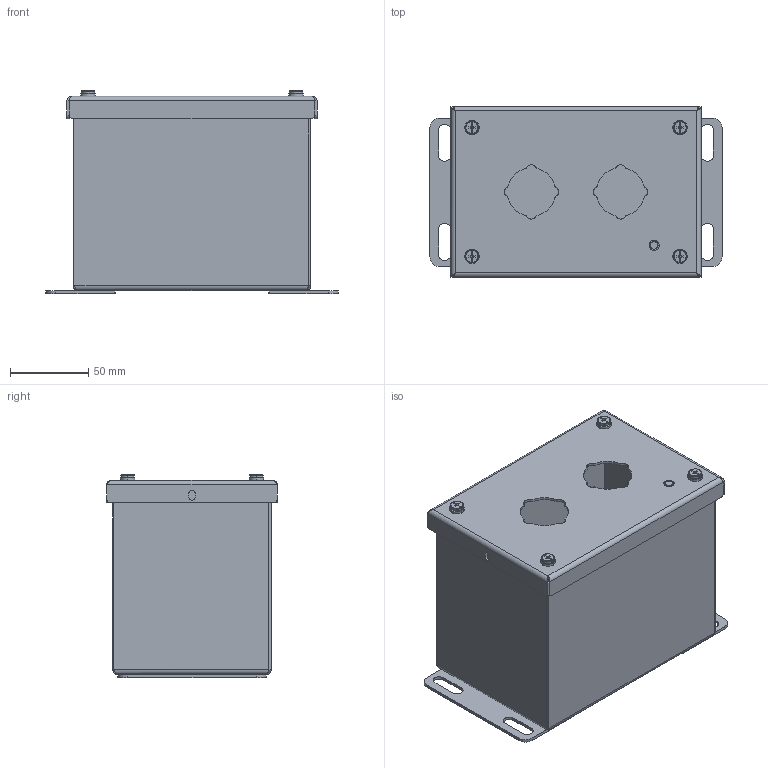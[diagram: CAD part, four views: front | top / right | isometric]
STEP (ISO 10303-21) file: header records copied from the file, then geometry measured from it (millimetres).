
FILE_DESCRIPTION((''),'2;1');
FILE_NAME('MODEL-335_ASM','2021-06-02T15:39:56',('chads'),('SAGINAW CONTROL & ENGINEERING'),'CREO PARAMETRIC BY PTC INC, 2017260','CREO PARAMETRIC BY PTC INC, 2017260','');
FILE_SCHEMA(('AUTOMOTIVE_DESIGN { 1 0 10303 214 1 1 1 1 }'));
Length unit declared in the file: inch
Products named in the file (10): MODEL-335-BDY; MODEL-335-DR; 100063; 102146; 101966; 100009; 100983; 102534; MODEL-335-GSKT; MODEL-335_ASM
Assembly tree (16 placements, depth 2):
  MODEL-335_ASM
    MODEL-335-BDY
    MODEL-335-DR
    100063
    102146  x2
    101966
    100009
    100983  x4
    102534  x4
    MODEL-335-GSKT
Bounding box: 187.32 x 109.54 x 130.14 mm (x, y, z)
Volume: 178666 mm3; surface area: 235381.4 mm2
Topology: 19 solids, 19 shells, 742 faces, 1839 edges, 1082 vertices
Faces by surface type: plane 278, cylinder 256, bspline 100, torus 80, cone 28
Entity records: 22184 total; most frequent: CARTESIAN_POINT 5885, DIRECTION 2195, ORIENTED_EDGE 2126, EDGE_CURVE 1063, PRESENTATION_STYLE_ASSIGNMENT 975, STYLED_ITEM 975, CURVE_STYLE 899, AXIS2_PLACEMENT_3D 793
